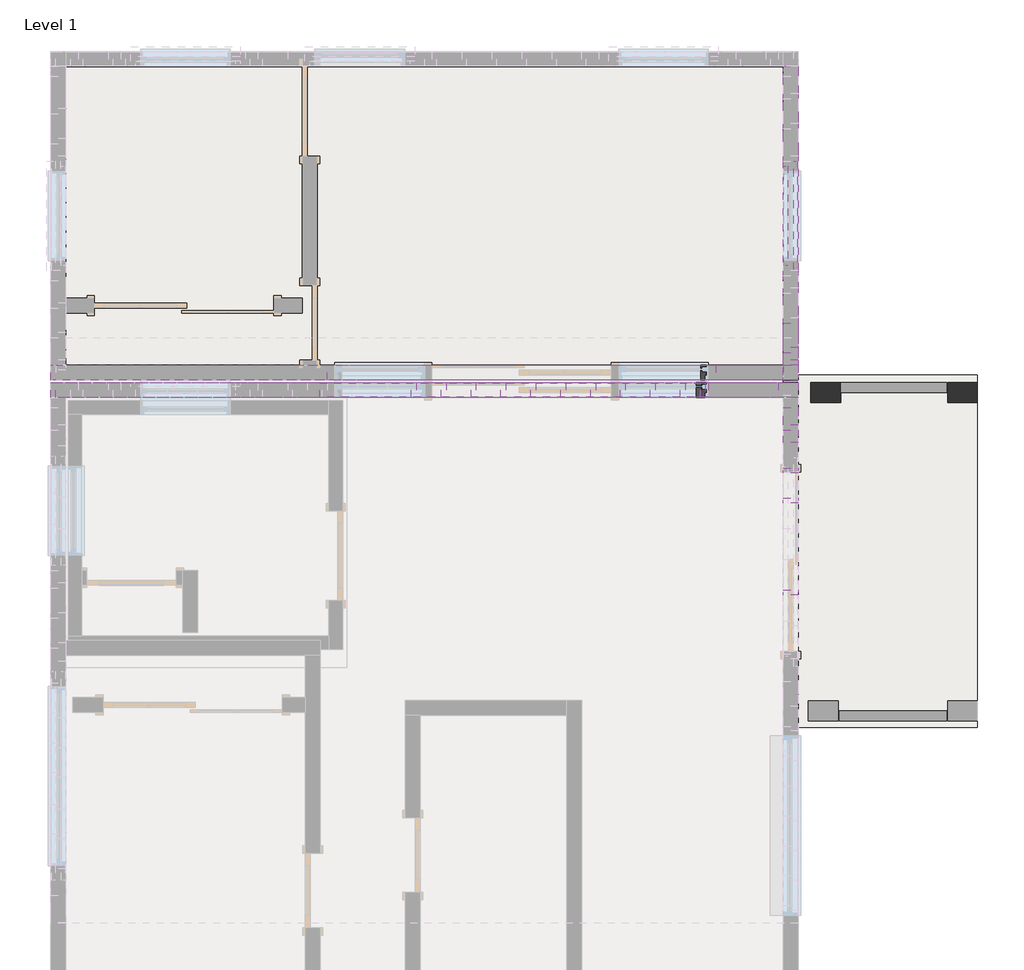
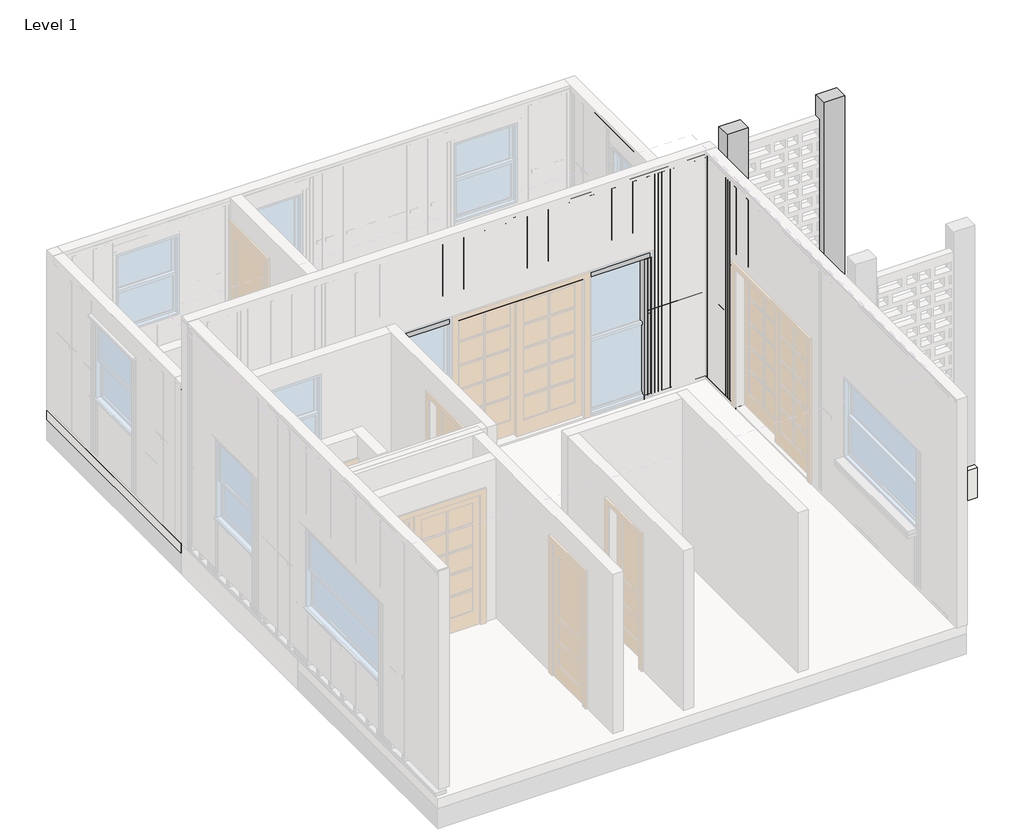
# One storey, part 10 of 12: 92 beams, 2 columns, 2 slabs.
"""IFC4 building model written with IfcOpenShell, lengths in millimetres."""

from ifc_helpers import new_model, si_unit, frame, origin, origin_with_axes, place, context, project, spatial, polyline, outline, extrude, faceted_brep, transform, mapped, element, save
from components import beam_f858cb3c, beam_8a68365d, dimension_lumber_2x6_a6130f63, beam_3d62fdea, beam_7a36c676, beam_fa8ff98f, beam_f2c8ab0e, beam_2b1354d8, beam_0820d10d, beam_558964e0, beam_47c8efd2, beam_303ef41e, beam_e0216813, beam_4715e774, beam_b7962ac8, beam_15472744, beam_b2f74068, beam_e05c4371, beam_19b97b81, beam_e041d9c6, beam_b8da4116, beam_9beb57b8, beam_6e482ad8, beam_52755977, beam_0ed2558e, beam_c20683a9, beam_c2d99e7f, beam_dd70e189, beam_7e40e194, beam_6d0ef5b7, beam_9d6aa0d6, beam_871d04bb, beam_68e625a2, beam_1fd180ee

model = new_model("IFC4")

# Units and contexts
model_context = context("Model", 3, world=origin())
ifc_project = project(units=[si_unit("LENGTHUNIT", "METRE", prefix="MILLI")], contexts=[model_context])

# Site, building, storey
site = spatial("IfcSite", under=ifc_project)
building = spatial("IfcBuilding", under=site)
storey = spatial("IfcBuildingStorey", under=building, Name="Level 1", Elevation=0.0)

# Beams
placement = place(None, origin())
beam_shape = beam_f858cb3c(model_context)
element("IfcBeam", 1, ObjectType="BraceBeam : 6\" x 16\"", at=placement, inside=storey, context=model_context, shape_type="MappedRepresentation", body=[
    mapped(beam_shape, transform((-6805.2890766, -18836.1763369, 2336.8), x_axis=(-1.0, 0.0, 0.0), y_axis=(0.0, -1.0, 0.0), z_axis=(0.0, 0.0, 1.0))),
])
beam_2_shape = beam_8a68365d(model_context)
element("IfcBeam", 2, ObjectType="BraceBeam : 6\" x 8\"", at=placement, inside=storey, context=model_context, shape_type="MappedRepresentation", body=[
    mapped(beam_2_shape, transform((-6732.5886983, -18658.4431336, 2244.725), x_axis=(-1.0, 0.0, 0.0), y_axis=(0.0, -1.0, 0.0), z_axis=(0.0, 0.0, 1.0))),
])
dimension_lumber_2x6_shape = dimension_lumber_2x6_a6130f63(model_context)
element("IfcBeam", 3, ObjectType="Dimension Lumber : 2x6", at=placement, inside=storey, context=model_context, shape_type="MappedRepresentation", body=[
    mapped(dimension_lumber_2x6_shape, transform((-4443.0840766, -18836.1763369, 25.4), x_axis=(-1.0000000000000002, 0.0, 0.0), y_axis=(0.0, 0.0, -1.0000000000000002), z_axis=(0.0, -1.0000000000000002, 0.0))),
])
element("IfcBeam", 4, ObjectType="Rectangular(Timber)-Beam : Timber_0' - 1 31/32\" x0' - 5 29/32\" _ContentGenerator", at=placement, inside=storey, context=model_context, shape_type="SweptSolid", body=[
    extrude(outline(polyline([(-3909.6790766, -18912.3863369), (-3909.6790766, -18963.1863369), (-4062.0790766, -18963.1863369), (-4062.0790766, -18912.3863369), (-3909.6790766, -18912.3863369)])), frame((0.0, 0.0, 50.8), z_axis=(0.0, 0.0, 1.0), x_axis=(1.0, 0.0, 0.0)), (0.0, 0.0, 1.0), 3378.2),
])
element("IfcBeam", 5, ObjectType="Rectangular(Timber)-Beam : Timber_0' - 1 31/32\" x0' - 5 29/32\" _ContentGenerator", at=placement, inside=storey, context=model_context, shape_type="SweptSolid", body=[
    extrude(outline(polyline([(-3909.6790766, -19623.5863369), (-3909.6790766, -19674.3863369), (-4062.0790766, -19674.3863369), (-4062.0790766, -19623.5863369), (-3909.6790766, -19623.5863369)])), origin_with_axes(), (0.0, 0.0, 1.0), 2127.25),
])
element("IfcBeam", 6, ObjectType="Rectangular(Timber)-Beam : Timber_0' - 1 31/32\" x0' - 5 29/32\" _ContentGenerator", at=placement, inside=storey, context=model_context, shape_type="SweptSolid", body=[
    extrude(outline(polyline([(3380.856975, -3960.4740766), (3431.656975, -3909.6740766), (3431.656975, -11478.8790766), (3380.856975, -11478.8790766), (3380.856975, -3960.4740766)])), frame((0.0, -18912.3763369, 0.0), z_axis=(0.0, 1.0, 0.0), x_axis=(0.0, 0.0, 1.0)), (0.0, 0.0, 1.0), 152.4),
])
element("IfcBeam", 7, ObjectType="Rectangular(Timber)-Beam : Timber_0' - 1 31/32\" x0' - 5 29/32\" _ContentGenerator", at=placement, inside=storey, context=model_context, shape_type="SweptSolid", body=[
    extrude(outline(polyline([(3431.656975, -3909.6740766), (3380.856975, -3960.4740766), (0.0, -3960.4740766), (0.0, -3909.6740766), (3431.656975, -3909.6740766)])), frame((0.0, -18912.3763369, 0.0), z_axis=(0.0, 1.0, 0.0), x_axis=(0.0, 0.0, 1.0)), (0.0, 0.0, 1.0), 152.4),
])
element("IfcBeam", 8, ObjectType="Rectangular(Timber)-Beam : Timber_0' - 1 31/32\" x0' - 5 29/32\" _ContentGenerator", at=placement, inside=storey, context=model_context, shape_type="SweptSolid", body=[
    extrude(outline(polyline([(-18683.8481336, 2336.8), (-18734.6481336, 2387.6), (-15534.2531336, 2387.6), (-15585.0531336, 2336.8), (-18683.8481336, 2336.8)])), frame((-4062.0790766, 0.0, 0.0), z_axis=(1.0, 0.0, 0.0), x_axis=(0.0, 1.0, 0.0)), (0.0, 0.0, 1.0), 152.4),
])
element("IfcBeam", 9, ObjectType="Rectangular(Timber)-Beam : Timber_0' - 1 31/32\" x0' - 5 29/32\" _ContentGenerator", at=placement, inside=storey, context=model_context, shape_type="SweptSolid", body=[
    extrude(outline(polyline([(-18734.6481336, 2387.6), (-18683.8481336, 2336.8), (-18683.8481336, 50.8), (-18734.6481336, 0.0), (-18734.6481336, 2387.6)])), frame((-4062.0790766, 0.0, 0.0), z_axis=(1.0, 0.0, 0.0), x_axis=(0.0, 1.0, 0.0)), (0.0, 0.0, 1.0), 152.4),
])
element("IfcBeam", 10, ObjectType="Rectangular(Timber)-Beam : Timber_0' - 1 31/32\" x0' - 5 29/32\" _ContentGenerator", at=placement, inside=storey, context=model_context, shape_type="SweptSolid", body=[
    extrude(outline(polyline([(-3909.6790766, -17617.0531342), (-3909.6790766, -17667.8531342), (-4062.0790766, -17667.8531342), (-4062.0790766, -17617.0531342), (-3909.6790766, -17617.0531342)])), frame((0.0, 0.0, 50.8), z_axis=(0.0, 0.0, 1.0), x_axis=(1.0, 0.0, 0.0)), (0.0, 0.0, 1.0), 2286.0),
])
element("IfcBeam", 11, ObjectType="Rectangular(Timber)-Beam : Timber_0' - 1 31/32\" x0' - 5 29/32\" _ContentGenerator", at=placement, inside=storey, context=model_context, shape_type="SweptSolid", body=[
    extrude(outline(polyline([(2438.4, -11529.6840766), (2387.6, -11478.8840766), (2387.6, -3909.6790766), (2438.4, -3909.6790766), (2438.4, -11529.6840766)])), frame((0.0, -18734.6431336, 0.0), z_axis=(0.0, 1.0, 0.0), x_axis=(0.0, 0.0, 1.0)), (0.0, 0.0, 1.0), 152.4),
])
element("IfcBeam", 12, ObjectType="Rectangular(Timber)-Beam : Timber_0' - 1 31/32\" x0' - 5 29/32\" _ContentGenerator", at=placement, inside=storey, context=model_context, shape_type="SweptSolid", body=[
    extrude(outline(polyline([(2387.6, -11478.8840766), (2336.8, -11529.6840766), (2336.8, -4112.8890766), (2387.6, -4062.0890766), (2387.6, -11478.8840766)])), frame((0.0, -18734.6431336, 0.0), z_axis=(0.0, 1.0, 0.0), x_axis=(0.0, 0.0, 1.0)), (0.0, 0.0, 1.0), 152.4),
])
element("IfcBeam", 13, ObjectType="Rectangular(Timber)-Beam : Timber_0' - 1 31/32\" x0' - 5 29/32\" _ContentGenerator", at=placement, inside=storey, context=model_context, shape_type="SweptSolid", body=[
    extrude(outline(polyline([(2387.6, -4062.0890766), (2336.8, -4112.8890766), (0.0, -4112.8890766), (0.0, -4062.0890766), (2387.6, -4062.0890766)])), frame((0.0, -18734.6431336, 0.0), z_axis=(0.0, 1.0, 0.0), x_axis=(0.0, 0.0, 1.0)), (0.0, 0.0, 1.0), 152.4),
])
element("IfcBeam", 14, ObjectType="Rectangular(Timber)-Beam : Timber_0' - 1 31/32\" x0' - 5 29/32\" _ContentGenerator", at=placement, inside=storey, context=model_context, shape_type="SweptSolid", body=[
    extrude(outline(polyline([(-4062.0790766, -18734.5763369), (-3909.6790766, -18734.5763369), (-3909.6790766, -19623.5863369), (-4062.0790766, -19623.5863369), (-4062.0790766, -18734.5763369)])), origin_with_axes(), (0.0, 0.0, 1.0), 50.8),
])
element("IfcBeam", 15, ObjectType="Rectangular(Timber)-Beam : Timber_0' - 1 31/32\" x0' - 5 29/32\" _ContentGenerator", at=placement, inside=storey, context=model_context, shape_type="SweptSolid", body=[
    extrude(outline(polyline([(-4112.8890766, -18582.2431336), (-4112.8890766, -18734.6431336), (-4852.9936983, -18734.6431336), (-4852.9936983, -18582.2431336), (-4112.8890766, -18582.2431336)])), origin_with_axes(), (0.0, 0.0, 1.0), 50.8),
])
beam_3_shape = beam_3d62fdea(model_context)
element("IfcBeam", 16, ObjectType="Rectangular(Timber)-Beam : Timber_0' - 1 31/32\" x0' - 5 29/32\" _ContentGenerator", at=placement, inside=storey, context=model_context, shape_type="MappedRepresentation", body=[
    mapped(beam_3_shape, transform((-3985.8790766, -19293.3813369, 1314.45), x_axis=(0.0, -1.0000000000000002, 0.0), y_axis=(0.0, 0.0, -1.0000000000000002), z_axis=(1.0000000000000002, 0.0, 0.0))),
])
beam_4_shape = beam_7a36c676(model_context)
element("IfcBeam", 17, ObjectType="Rectangular(Timber)-Beam : Timber_0' - 1 31/32\" x0' - 5 29/32\" _ContentGenerator", at=placement, inside=storey, context=model_context, shape_type="MappedRepresentation", body=[
    mapped(beam_4_shape, transform((-4404.9890766, -18658.4431336, 1219.2), x_axis=(-1.0000000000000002, 0.0, 0.0), y_axis=(0.0, 0.0, -1.0000000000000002), z_axis=(0.0, -1.0000000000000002, 0.0))),
])
beam_5_shape = beam_fa8ff98f(model_context)
element("IfcBeam", 18, ObjectType="Rectangular(Timber)-Beam : Timber_0' - 1 31/32\" x0' - 5 29/32\" _ContentGenerator", at=placement, inside=storey, context=model_context, shape_type="MappedRepresentation", body=[
    mapped(beam_5_shape, transform((-6000.9457433, -18836.1763369, 2985.8284875), x_axis=(0.0, 0.0, 1.0), y_axis=(1.0, 0.0, 0.0), z_axis=(0.0, 1.0, 0.0))),
])
element("IfcBeam", 19, ObjectType="Rectangular(Timber)-Beam : Timber_0' - 1 31/32\" x0' - 5 29/32\" _ContentGenerator", at=placement, inside=storey, context=model_context, shape_type="MappedRepresentation", body=[
    mapped(beam_5_shape, transform((-5391.3457433, -18836.1763369, 2985.8284875), x_axis=(0.0, 0.0, 1.0), y_axis=(1.0, 0.0, 0.0), z_axis=(0.0, 1.0, 0.0))),
])
element("IfcBeam", 20, ObjectType="Rectangular(Timber)-Beam : Timber_0' - 1 31/32\" x0' - 5 29/32\" _ContentGenerator", at=placement, inside=storey, context=model_context, shape_type="MappedRepresentation", body=[
    mapped(beam_5_shape, transform((-4883.3457433, -18836.1763369, 2985.8284875), x_axis=(0.0, 0.0, 1.0), y_axis=(1.0, 0.0, 0.0), z_axis=(0.0, 1.0, 0.0))),
])
element("IfcBeam", 21, ObjectType="Rectangular(Timber)-Beam : Timber_0' - 1 31/32\" x0' - 5 29/32\" _ContentGenerator", at=placement, inside=storey, context=model_context, shape_type="MappedRepresentation", body=[
    mapped(beam_5_shape, transform((-6305.7457433, -18836.1763369, 2985.8284875), x_axis=(0.0, 0.0, 1.0), y_axis=(1.0, 0.0, 0.0), z_axis=(0.0, 1.0, 0.0))),
])
element("IfcBeam", 22, ObjectType="Rectangular(Timber)-Beam : Timber_0' - 1 31/32\" x0' - 5 29/32\" _ContentGenerator", at=placement, inside=storey, context=model_context, shape_type="MappedRepresentation", body=[
    mapped(beam_5_shape, transform((-6610.5457433, -18836.1763369, 2985.8284875), x_axis=(0.0, 0.0, 1.0), y_axis=(1.0, 0.0, 0.0), z_axis=(0.0, 1.0, 0.0))),
])
element("IfcBeam", 23, ObjectType="Rectangular(Timber)-Beam : Timber_0' - 1 31/32\" x0' - 5 29/32\" _ContentGenerator", at=placement, inside=storey, context=model_context, shape_type="MappedRepresentation", body=[
    mapped(beam_5_shape, transform((-6915.3457433, -18836.1763369, 2985.8284875), x_axis=(0.0, 0.0, 1.0), y_axis=(1.0, 0.0, 0.0), z_axis=(0.0, 1.0, 0.0))),
])
element("IfcBeam", 24, ObjectType="Rectangular(Timber)-Beam : Timber_0' - 1 31/32\" x0' - 5 29/32\" _ContentGenerator", at=placement, inside=storey, context=model_context, shape_type="MappedRepresentation", body=[
    mapped(beam_5_shape, transform((-7220.1457433, -18836.1763369, 2985.8284875), x_axis=(0.0, 0.0, 1.0), y_axis=(1.0, 0.0, 0.0), z_axis=(0.0, 1.0, 0.0))),
])
element("IfcBeam", 25, ObjectType="Rectangular(Timber)-Beam : Timber_0' - 1 31/32\" x0' - 5 29/32\" _ContentGenerator", at=placement, inside=storey, context=model_context, shape_type="MappedRepresentation", body=[
    mapped(beam_5_shape, transform((-7524.9457433, -18836.1763369, 2985.8284875), x_axis=(0.0, 0.0, 1.0), y_axis=(1.0, 0.0, 0.0), z_axis=(0.0, 1.0, 0.0))),
])
element("IfcBeam", 26, ObjectType="Rectangular(Timber)-Beam : Timber_0' - 1 31/32\" x0' - 5 29/32\" _ContentGenerator", at=placement, inside=storey, context=model_context, shape_type="MappedRepresentation", body=[
    mapped(beam_5_shape, transform((-5696.1457433, -18836.1763369, 2985.8284875), x_axis=(0.0, 0.0, 1.0), y_axis=(1.0, 0.0, 0.0), z_axis=(0.0, 1.0, 0.0))),
])
element("IfcBeam", 27, ObjectType="Rectangular(Timber)-Beam : Timber_0' - 1 31/32\" x0' - 5 29/32\" _ContentGenerator", at=placement, inside=storey, context=model_context, shape_type="MappedRepresentation", body=[
    mapped(beam_5_shape, transform((-7829.7457433, -18836.1763369, 2985.8284875), x_axis=(0.0, 0.0, 1.0), y_axis=(1.0, 0.0, 0.0), z_axis=(0.0, 1.0, 0.0))),
])
element("IfcBeam", 28, ObjectType="Rectangular(Timber)-Beam : Timber_0' - 1 31/32\" x0' - 5 29/32\" _ContentGenerator", at=placement, inside=storey, context=model_context, shape_type="MappedRepresentation", body=[
    mapped(beam_5_shape, transform((-5086.5457433, -18836.1763369, 2985.8284875), x_axis=(0.0, 0.0, 1.0), y_axis=(1.0, 0.0, 0.0), z_axis=(0.0, 1.0, 0.0))),
])
beam_6_shape = beam_f2c8ab0e(model_context)
element("IfcBeam", 29, ObjectType="Rectangular(Timber)-Beam : Timber_0' - 1 31/32\" x0' - 5 29/32\" _ContentGenerator", at=placement, inside=storey, context=model_context, shape_type="MappedRepresentation", body=[
    mapped(beam_6_shape, transform((-4878.3936983, -18658.4431336, 1089.025), x_axis=(0.0, 0.0, 1.0), y_axis=(-1.0, 0.0, 0.0), z_axis=(0.0, -1.0, 0.0))),
])
beam_7_shape = beam_2b1354d8(model_context)
element("IfcBeam", 30, ObjectType="Rectangular(Timber)-Beam : Timber_0' - 1 31/32\" x0' - 5 29/32\" _ContentGenerator", at=placement, inside=storey, context=model_context, shape_type="MappedRepresentation", body=[
    mapped(beam_7_shape, transform((-4201.7890766, -18658.4431336, 1219.2), x_axis=(-1.0000000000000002, 0.0, 0.0), y_axis=(0.0, 0.0, -1.0000000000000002), z_axis=(0.0, -1.0000000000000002, 0.0))),
])
beam_8_shape = beam_0820d10d(model_context)
element("IfcBeam", 31, ObjectType="Rectangular(Timber)-Beam : Timber_0' - 1 31/32\" x0' - 5 29/32\" _ContentGenerator", at=placement, inside=storey, context=model_context, shape_type="MappedRepresentation", body=[
    mapped(beam_8_shape, transform((-4506.5790766, -18836.1763369, 1314.45), x_axis=(1.0000000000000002, 0.0, 0.0), y_axis=(0.0, 0.0, -1.0000000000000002), z_axis=(0.0, 1.0000000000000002, 0.0))),
])
beam_9_shape = beam_558964e0(model_context)
element("IfcBeam", 32, ObjectType="Rectangular(Timber)-Beam : Timber_0' - 1 31/32\" x0' - 5 29/32\" _ContentGenerator", at=placement, inside=storey, context=model_context, shape_type="MappedRepresentation", body=[
    mapped(beam_9_shape, transform((-3985.8790766, -18658.4531336, 1193.8), x_axis=(0.0, 0.0, 1.0), y_axis=(0.0, -1.0, 0.0), z_axis=(1.0, 0.0, 0.0))),
])
element("IfcBeam", 33, ObjectType="Rectangular(Timber)-Beam : Timber_0' - 1 31/32\" x0' - 5 29/32\" _ContentGenerator", at=placement, inside=storey, context=model_context, shape_type="MappedRepresentation", body=[
    mapped(beam_9_shape, transform((-3985.8790766, -18709.2481336, 1193.8), x_axis=(0.0, 0.0, 1.0), y_axis=(0.0, -1.0, 0.0), z_axis=(1.0, 0.0, 0.0))),
])
element("IfcBeam", 34, ObjectType="Rectangular(Timber)-Beam : Timber_0' - 1 31/32\" x0' - 5 29/32\" _ContentGenerator", at=placement, inside=storey, context=model_context, shape_type="MappedRepresentation", body=[
    mapped(beam_9_shape, transform((-3985.8790766, -18658.4531336, 1193.8), x_axis=(0.0, 0.0, 1.0), y_axis=(0.0, -1.0, 0.0), z_axis=(1.0, 0.0, 0.0))),
])
element("IfcBeam", 35, ObjectType="Rectangular(Timber)-Beam : Timber_0' - 1 31/32\" x0' - 5 29/32\" _ContentGenerator", at=placement, inside=storey, context=model_context, shape_type="MappedRepresentation", body=[
    mapped(beam_9_shape, transform((-3985.8790766, -17820.2431336, 1193.8), x_axis=(0.0, 0.0, 1.0), y_axis=(0.0, -1.0, 0.0), z_axis=(1.0, 0.0, 0.0))),
])
element("IfcBeam", 36, ObjectType="Rectangular(Timber)-Beam : Timber_0' - 1 31/32\" x0' - 5 29/32\" _ContentGenerator", at=placement, inside=storey, context=model_context, shape_type="MappedRepresentation", body=[
    mapped(beam_9_shape, transform((-3985.8790766, -18125.0431336, 1193.8), x_axis=(0.0, 0.0, 1.0), y_axis=(0.0, -1.0, 0.0), z_axis=(1.0, 0.0, 0.0))),
])
element("IfcBeam", 37, ObjectType="Rectangular(Timber)-Beam : Timber_0' - 1 31/32\" x0' - 5 29/32\" _ContentGenerator", at=placement, inside=storey, context=model_context, shape_type="MappedRepresentation", body=[
    mapped(beam_9_shape, transform((-3985.8790766, -18429.8431336, 1193.8), x_axis=(0.0, 0.0, 1.0), y_axis=(0.0, -1.0, 0.0), z_axis=(1.0, 0.0, 0.0))),
])
element("IfcBeam", 38, ObjectType="Rectangular(Timber)-Beam : Timber_0' - 1 31/32\" x0' - 5 29/32\" _ContentGenerator", at=placement, inside=storey, context=model_context, shape_type="MappedRepresentation", body=[
    mapped(beam_9_shape, transform((-3985.8790766, -18709.2481336, 1193.8), x_axis=(0.0, 0.0, 1.0), y_axis=(0.0, -1.0, 0.0), z_axis=(1.0, 0.0, 0.0))),
])
element("IfcBeam", 39, ObjectType="Rectangular(Timber)-Beam : Timber_0' - 1 31/32\" x0' - 5 29/32\" _ContentGenerator", at=placement, inside=storey, context=model_context, shape_type="MappedRepresentation", body=[
    mapped(beam_9_shape, transform((-3985.8790766, -18658.4531336, 1193.8), x_axis=(0.0, 0.0, 1.0), y_axis=(0.0, -1.0, 0.0), z_axis=(1.0, 0.0, 0.0))),
])
element("IfcBeam", 40, ObjectType="Rectangular(Timber)-Beam : Timber_0' - 1 31/32\" x0' - 5 29/32\" _ContentGenerator", at=placement, inside=storey, context=model_context, shape_type="MappedRepresentation", body=[
    mapped(beam_9_shape, transform((-3985.8790766, -17820.2431336, 1193.8), x_axis=(0.0, 0.0, 1.0), y_axis=(0.0, -1.0, 0.0), z_axis=(1.0, 0.0, 0.0))),
])
element("IfcBeam", 41, ObjectType="Rectangular(Timber)-Beam : Timber_0' - 1 31/32\" x0' - 5 29/32\" _ContentGenerator", at=placement, inside=storey, context=model_context, shape_type="MappedRepresentation", body=[
    mapped(beam_9_shape, transform((-3985.8790766, -18125.0431336, 1193.8), x_axis=(0.0, 0.0, 1.0), y_axis=(0.0, -1.0, 0.0), z_axis=(1.0, 0.0, 0.0))),
])
element("IfcBeam", 42, ObjectType="Rectangular(Timber)-Beam : Timber_0' - 1 31/32\" x0' - 5 29/32\" _ContentGenerator", at=placement, inside=storey, context=model_context, shape_type="MappedRepresentation", body=[
    mapped(beam_9_shape, transform((-3985.8790766, -18429.8431336, 1193.8), x_axis=(0.0, 0.0, 1.0), y_axis=(0.0, -1.0, 0.0), z_axis=(1.0, 0.0, 0.0))),
])
element("IfcBeam", 43, ObjectType="Rectangular(Timber)-Beam : Timber_0' - 1 31/32\" x0' - 5 29/32\" _ContentGenerator", at=placement, inside=storey, context=model_context, shape_type="MappedRepresentation", body=[
    mapped(beam_9_shape, transform((-4138.2890766, -18658.4431336, 1193.8), x_axis=(0.0, 0.0, 1.0), y_axis=(-1.0, 0.0, 0.0), z_axis=(0.0, -1.0, 0.0))),
])
element("IfcBeam", 44, ObjectType="Rectangular(Timber)-Beam : Timber_0' - 1 31/32\" x0' - 5 29/32\" _ContentGenerator", at=placement, inside=storey, context=model_context, shape_type="MappedRepresentation", body=[
    mapped(beam_9_shape, transform((-3985.8790766, -18607.6581336, 1193.8), x_axis=(0.0, 0.0, 1.0), y_axis=(0.0, -1.0, 0.0), z_axis=(1.0, 0.0, 0.0))),
])
element("IfcBeam", 45, ObjectType="Rectangular(Timber)-Beam : Timber_0' - 1 31/32\" x0' - 5 29/32\" _ContentGenerator", at=placement, inside=storey, context=model_context, shape_type="MappedRepresentation", body=[
    mapped(beam_9_shape, transform((-3985.8790766, -18556.8581336, 1193.8), x_axis=(0.0, 0.0, 1.0), y_axis=(0.0, -1.0, 0.0), z_axis=(1.0, 0.0, 0.0))),
])
element("IfcBeam", 46, ObjectType="Rectangular(Timber)-Beam : Timber_0' - 1 31/32\" x0' - 5 29/32\" _ContentGenerator", at=placement, inside=storey, context=model_context, shape_type="MappedRepresentation", body=[
    mapped(beam_9_shape, transform((-4544.6890766, -18658.4431336, 1193.8), x_axis=(0.0, 0.0, 1.0), y_axis=(-1.0, 0.0, 0.0), z_axis=(0.0, -1.0, 0.0))),
])
element("IfcBeam", 47, ObjectType="Rectangular(Timber)-Beam : Timber_0' - 1 31/32\" x0' - 5 29/32\" _ContentGenerator", at=placement, inside=storey, context=model_context, shape_type="MappedRepresentation", body=[
    mapped(beam_9_shape, transform((-4239.8890766, -18658.4431336, 1193.8), x_axis=(0.0, 0.0, 1.0), y_axis=(-1.0, 0.0, 0.0), z_axis=(0.0, -1.0, 0.0))),
])
element("IfcBeam", 48, ObjectType="Rectangular(Timber)-Beam : Timber_0' - 1 31/32\" x0' - 5 29/32\" _ContentGenerator", at=placement, inside=storey, context=model_context, shape_type="MappedRepresentation", body=[
    mapped(beam_9_shape, transform((-4725.9936983, -18658.4431336, 1193.8), x_axis=(0.0, 0.0, 1.0), y_axis=(-1.0, 0.0, 0.0), z_axis=(0.0, -1.0, 0.0))),
])
element("IfcBeam", 49, ObjectType="Rectangular(Timber)-Beam : Timber_0' - 1 31/32\" x0' - 5 29/32\" _ContentGenerator", at=placement, inside=storey, context=model_context, shape_type="MappedRepresentation", body=[
    mapped(beam_9_shape, transform((-4675.1936983, -18658.4431336, 1193.8), x_axis=(0.0, 0.0, 1.0), y_axis=(-1.0, 0.0, 0.0), z_axis=(0.0, -1.0, 0.0))),
])
element("IfcBeam", 50, ObjectType="Rectangular(Timber)-Beam : Timber_0' - 1 31/32\" x0' - 5 29/32\" _ContentGenerator", at=placement, inside=storey, context=model_context, shape_type="MappedRepresentation", body=[
    mapped(beam_9_shape, transform((-4624.3936983, -18658.4431336, 1193.8), x_axis=(0.0, 0.0, 1.0), y_axis=(-1.0, 0.0, 0.0), z_axis=(0.0, -1.0, 0.0))),
])
beam_10_shape = beam_47c8efd2(model_context)
element("IfcBeam", 51, ObjectType="Rectangular(Timber)-Beam : Timber_0' - 1 31/32\" x0' - 5 29/32\" _ContentGenerator", at=placement, inside=storey, context=model_context, shape_type="MappedRepresentation", body=[
    mapped(beam_10_shape, transform((-7719.6790766, -18836.1763369, 3457.056975), x_axis=(1.0000000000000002, 0.0, 0.0), y_axis=(0.0, 0.0, -1.0000000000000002), z_axis=(0.0, 1.0000000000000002, 0.0))),
])
beam_11_shape = beam_303ef41e(model_context)
element("IfcBeam", 52, ObjectType="Rectangular(Timber)-Beam : Timber_0' - 1 31/32\" x0' - 5 29/32\" _ContentGenerator", at=placement, inside=storey, context=model_context, shape_type="MappedRepresentation", body=[
    mapped(beam_11_shape, transform((-3985.8790766, -17058.2431336, 2413.0), x_axis=(0.0, -1.0000000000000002, 0.0), y_axis=(0.0, 0.0, -1.0000000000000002), z_axis=(1.0000000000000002, 0.0, 0.0))),
])
beam_12_shape = beam_e0216813(model_context)
element("IfcBeam", 53, ObjectType="Rectangular(Timber)-Beam : Timber_0' - 1 31/32\" x0' - 5 29/32\" _ContentGenerator", at=placement, inside=storey, context=model_context, shape_type="MappedRepresentation", body=[
    mapped(beam_12_shape, transform((-4922.8436983, -18836.1763369, 1066.8), x_axis=(0.0, 0.0, 1.0), y_axis=(1.0, 0.0, 0.0), z_axis=(0.0, 1.0, 0.0))),
])
beam_13_shape = beam_4715e774(model_context)
element("IfcBeam", 54, ObjectType="Rectangular(Timber)-Beam : Timber_0' - 1 31/32\" x0' - 5 29/32\" _ContentGenerator", at=placement, inside=storey, context=model_context, shape_type="MappedRepresentation", body=[
    mapped(beam_13_shape, transform((-4872.0436983, -18836.1763369, 1092.2), x_axis=(0.0, 0.0, 1.0), y_axis=(1.0, 0.0, 0.0), z_axis=(0.0, 1.0, 0.0))),
])
element("IfcBeam", 55, ObjectType="Rectangular(Timber)-Beam : Timber_0' - 1 31/32\" x0' - 5 29/32\" _ContentGenerator", at=placement, inside=storey, context=model_context, shape_type="MappedRepresentation", body=[
    mapped(beam_13_shape, transform((-4821.2436983, -18836.1763369, 1092.2), x_axis=(0.0, 0.0, 1.0), y_axis=(1.0, 0.0, 0.0), z_axis=(0.0, 1.0, 0.0))),
])
beam_14_shape = beam_b7962ac8(model_context)
element("IfcBeam", 56, ObjectType="Rectangular(Timber)-Beam : Timber_0' - 1 31/32\" x0' - 5 29/32\" _ContentGenerator", at=placement, inside=storey, context=model_context, shape_type="MappedRepresentation", body=[
    mapped(beam_14_shape, transform((-3985.8790766, -17490.0531336, 457.2), x_axis=(0.0, 0.0, 1.0), y_axis=(0.0, -1.0, 0.0), z_axis=(1.0, 0.0, 0.0))),
])
beam_15_shape = beam_15472744(model_context)
element("IfcBeam", 57, ObjectType="Rectangular(Timber)-Beam : Timber_0' - 1 31/32\" x0' - 5 29/32\" _ContentGenerator", at=placement, inside=storey, context=model_context, shape_type="MappedRepresentation", body=[
    mapped(beam_15_shape, transform((-3985.8790766, -18988.5863369, 1715.8284875), x_axis=(0.0, 0.0, 1.0), y_axis=(0.0, -1.0, 0.0), z_axis=(1.0, 0.0, 0.0))),
])
element("IfcBeam", 58, ObjectType="Rectangular(Timber)-Beam : Timber_0' - 1 31/32\" x0' - 5 29/32\" _ContentGenerator", at=placement, inside=storey, context=model_context, shape_type="MappedRepresentation", body=[
    mapped(beam_15_shape, transform((-3985.8790766, -19217.1763369, 1715.8284875), x_axis=(0.0, 0.0, 1.0), y_axis=(0.0, -1.0, 0.0), z_axis=(1.0, 0.0, 0.0))),
])
element("IfcBeam", 59, ObjectType="Rectangular(Timber)-Beam : Timber_0' - 1 31/32\" x0' - 5 29/32\" _ContentGenerator", at=placement, inside=storey, context=model_context, shape_type="MappedRepresentation", body=[
    mapped(beam_15_shape, transform((-3985.8690766, -18836.1763369, 1715.8284875), x_axis=(0.0, 0.0, 1.0), y_axis=(1.0, 0.0, 0.0), z_axis=(0.0, 1.0, 0.0))),
])
element("IfcBeam", 60, ObjectType="Rectangular(Timber)-Beam : Timber_0' - 1 31/32\" x0' - 5 29/32\" _ContentGenerator", at=placement, inside=storey, context=model_context, shape_type="MappedRepresentation", body=[
    mapped(beam_15_shape, transform((-4036.6690766, -18836.1763369, 1715.8284875), x_axis=(0.0, 0.0, 1.0), y_axis=(1.0, 0.0, 0.0), z_axis=(0.0, 1.0, 0.0))),
])
element("IfcBeam", 61, ObjectType="Rectangular(Timber)-Beam : Timber_0' - 1 31/32\" x0' - 5 29/32\" _ContentGenerator", at=placement, inside=storey, context=model_context, shape_type="MappedRepresentation", body=[
    mapped(beam_15_shape, transform((-4087.4690766, -18836.1763369, 1715.8284875), x_axis=(0.0, 0.0, 1.0), y_axis=(1.0, 0.0, 0.0), z_axis=(0.0, 1.0, 0.0))),
])
element("IfcBeam", 62, ObjectType="Rectangular(Timber)-Beam : Timber_0' - 1 31/32\" x0' - 5 29/32\" _ContentGenerator", at=placement, inside=storey, context=model_context, shape_type="MappedRepresentation", body=[
    mapped(beam_15_shape, transform((-4544.6890766, -18836.1763369, 1715.8284875), x_axis=(0.0, 0.0, 1.0), y_axis=(1.0, 0.0, 0.0), z_axis=(0.0, 1.0, 0.0))),
])
element("IfcBeam", 63, ObjectType="Rectangular(Timber)-Beam : Timber_0' - 1 31/32\" x0' - 5 29/32\" _ContentGenerator", at=placement, inside=storey, context=model_context, shape_type="MappedRepresentation", body=[
    mapped(beam_15_shape, transform((-4239.8890766, -18836.1763369, 1715.8284875), x_axis=(0.0, 0.0, 1.0), y_axis=(1.0, 0.0, 0.0), z_axis=(0.0, 1.0, 0.0))),
])
element("IfcBeam", 64, ObjectType="Rectangular(Timber)-Beam : Timber_0' - 1 31/32\" x0' - 5 29/32\" _ContentGenerator", at=placement, inside=storey, context=model_context, shape_type="MappedRepresentation", body=[
    mapped(beam_15_shape, transform((-4770.4436983, -18836.1763369, 1715.8284875), x_axis=(0.0, 0.0, 1.0), y_axis=(1.0, 0.0, 0.0), z_axis=(0.0, 1.0, 0.0))),
])
element("IfcBeam", 65, ObjectType="Rectangular(Timber)-Beam : Timber_0' - 1 31/32\" x0' - 5 29/32\" _ContentGenerator", at=placement, inside=storey, context=model_context, shape_type="MappedRepresentation", body=[
    mapped(beam_15_shape, transform((-4719.6436983, -18836.1763369, 1715.8284875), x_axis=(0.0, 0.0, 1.0), y_axis=(1.0, 0.0, 0.0), z_axis=(0.0, 1.0, 0.0))),
])
element("IfcBeam", 66, ObjectType="Rectangular(Timber)-Beam : Timber_0' - 1 31/32\" x0' - 5 29/32\" _ContentGenerator", at=placement, inside=storey, context=model_context, shape_type="MappedRepresentation", body=[
    mapped(beam_15_shape, transform((-4668.8436983, -18836.1763369, 1715.8284875), x_axis=(0.0, 0.0, 1.0), y_axis=(1.0, 0.0, 0.0), z_axis=(0.0, 1.0, 0.0))),
])
beam_16_shape = beam_b2f74068(model_context)
element("IfcBeam", 67, ObjectType="Rectangular(Timber)-Beam : Timber_0' - 1 31/32\" x0' - 5 29/32\" _ContentGenerator", at=placement, inside=storey, context=model_context, shape_type="MappedRepresentation", body=[
    mapped(beam_16_shape, transform((-3985.8790766, -19496.5863369, 1714.5), x_axis=(0.0, 0.0, 1.0), y_axis=(0.0, -1.0, 0.0), z_axis=(1.0, 0.0, 0.0))),
])
element("IfcBeam", 68, ObjectType="Rectangular(Timber)-Beam : Timber_0' - 1 31/32\" x0' - 5 29/32\" _ContentGenerator", at=placement, inside=storey, context=model_context, shape_type="MappedRepresentation", body=[
    mapped(beam_16_shape, transform((-3985.8790766, -19445.7863369, 1714.5), x_axis=(0.0, 0.0, 1.0), y_axis=(0.0, -1.0, 0.0), z_axis=(1.0, 0.0, 0.0))),
])
element("IfcBeam", 69, ObjectType="Rectangular(Timber)-Beam : Timber_0' - 1 31/32\" x0' - 5 29/32\" _ContentGenerator", at=placement, inside=storey, context=model_context, shape_type="MappedRepresentation", body=[
    mapped(beam_16_shape, transform((-3985.8790766, -19394.9863369, 1714.5), x_axis=(0.0, 0.0, 1.0), y_axis=(0.0, -1.0, 0.0), z_axis=(1.0, 0.0, 0.0))),
])
beam_17_shape = beam_e05c4371(model_context)
element("IfcBeam", 70, ObjectType="Rectangular(Timber)-Beam : Timber_0' - 1 31/32\" x0' - 5 29/32\" _ContentGenerator", at=placement, inside=storey, context=model_context, shape_type="MappedRepresentation", body=[
    mapped(beam_17_shape, transform((-3985.8790766, -17058.2531336, 889.0), x_axis=(0.0, -1.0000000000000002, 0.0), y_axis=(0.0, 0.0, -1.0000000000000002), z_axis=(1.0000000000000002, 0.0, 0.0))),
])
beam_18_shape = beam_19b97b81(model_context)
element("IfcBeam", 71, ObjectType="Rectangular(Timber)-Beam : Timber_0' - 1 31/32\" x0' - 5 29/32\" _ContentGenerator", at=placement, inside=storey, context=model_context, shape_type="MappedRepresentation", body=[
    mapped(beam_18_shape, transform((-3985.8790766, -18277.4431336, 1314.45), x_axis=(0.0, 1.0000000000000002, 0.0), y_axis=(0.0, 0.0, -1.0000000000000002), z_axis=(-1.0000000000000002, 0.0, 0.0))),
])
beam_19_shape = beam_e041d9c6(model_context)
element("IfcBeam", 72, ObjectType="Rectangular(Timber)-Beam : Timber_0' - 1 31/32\" x0' - 5 29/32\" _ContentGenerator", at=placement, inside=storey, context=model_context, shape_type="MappedRepresentation", body=[
    mapped(beam_19_shape, transform((-3985.8790766, -19102.8813369, 1314.45), x_axis=(0.0, -1.0000000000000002, 0.0), y_axis=(0.0, 0.0, -1.0000000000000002), z_axis=(1.0000000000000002, 0.0, 0.0))),
])
beam_20_shape = beam_b8da4116(model_context)
element("IfcBeam", 73, ObjectType="Rectangular(Timber)-Beam : Timber_0' - 1 31/32\" x0' - 5 29/32\" _ContentGenerator", at=placement, inside=storey, context=model_context, shape_type="MappedRepresentation", body=[
    mapped(beam_20_shape, transform((-3985.8790766, -18480.6506336, 1314.45), x_axis=(0.0, 1.0000000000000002, 0.0), y_axis=(0.0, 0.0, -1.0000000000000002), z_axis=(-1.0000000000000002, 0.0, 0.0))),
])
beam_21_shape = beam_9beb57b8(model_context)
element("IfcBeam", 74, ObjectType="Rectangular(Timber)-Beam : Timber_0' - 1 31/32\" x0' - 5 29/32\" _ContentGenerator", at=placement, inside=storey, context=model_context, shape_type="MappedRepresentation", body=[
    mapped(beam_21_shape, transform((-4827.5936983, -18658.4431336, 1101.725), x_axis=(0.0, 0.0, 1.0), y_axis=(-1.0, 0.0, 0.0), z_axis=(0.0, -1.0, 0.0))),
])
element("IfcBeam", 75, ObjectType="Rectangular(Timber)-Beam : Timber_0' - 1 31/32\" x0' - 5 29/32\" _ContentGenerator", at=placement, inside=storey, context=model_context, shape_type="MappedRepresentation", body=[
    mapped(beam_21_shape, transform((-4776.7936983, -18658.4431336, 1101.725), x_axis=(0.0, 0.0, 1.0), y_axis=(-1.0, 0.0, 0.0), z_axis=(0.0, -1.0, 0.0))),
])
beam_22_shape = beam_6e482ad8(model_context)
element("IfcBeam", 76, ObjectType="Rectangular(Timber)-Beam : Timber_0' - 1 31/32\" x0' - 5 29/32\" _ContentGenerator", at=placement, inside=storey, context=model_context, shape_type="MappedRepresentation", body=[
    mapped(beam_22_shape, transform((-3985.8790766, -17540.8531336, 1076.325), x_axis=(0.0, 0.0, 1.0), y_axis=(0.0, -1.0, 0.0), z_axis=(1.0, 0.0, 0.0))),
])
beam_23_shape = beam_52755977(model_context)
element("IfcBeam", 77, ObjectType="Rectangular(Timber)-Beam : Timber_0' - 1 31/32\" x0' - 5 29/32\" _ContentGenerator", at=placement, inside=storey, context=model_context, shape_type="MappedRepresentation", body=[
    mapped(beam_23_shape, transform((-3985.8790766, -19962.2430036, 2871.5284875), x_axis=(0.0, 0.0, 1.0), y_axis=(0.0, -1.0, 0.0), z_axis=(1.0, 0.0, 0.0))),
])
element("IfcBeam", 78, ObjectType="Rectangular(Timber)-Beam : Timber_0' - 1 31/32\" x0' - 5 29/32\" _ContentGenerator", at=placement, inside=storey, context=model_context, shape_type="MappedRepresentation", body=[
    mapped(beam_23_shape, transform((-3985.8790766, -20902.0430036, 2871.5284875), x_axis=(0.0, 0.0, 1.0), y_axis=(0.0, -1.0, 0.0), z_axis=(1.0, 0.0, 0.0))),
])
element("IfcBeam", 79, ObjectType="Rectangular(Timber)-Beam : Timber_0' - 1 31/32\" x0' - 5 29/32\" _ContentGenerator", at=placement, inside=storey, context=model_context, shape_type="MappedRepresentation", body=[
    mapped(beam_23_shape, transform((-3985.8790766, -19657.4430036, 2871.5284875), x_axis=(0.0, 0.0, 1.0), y_axis=(0.0, -1.0, 0.0), z_axis=(1.0, 0.0, 0.0))),
])
beam_24_shape = beam_0ed2558e(model_context)
element("IfcBeam", 80, ObjectType="Rectangular(Timber)-Beam : Timber_0' - 1 31/32\" x0' - 5 29/32\" _ContentGenerator", at=placement, inside=storey, context=model_context, shape_type="MappedRepresentation", body=[
    mapped(beam_24_shape, transform((-3985.8790766, -19598.1863369, 1089.025), x_axis=(0.0, 0.0, 1.0), y_axis=(0.0, -1.0, 0.0), z_axis=(1.0, 0.0, 0.0))),
])
element("IfcBeam", 81, ObjectType="Rectangular(Timber)-Beam : Timber_0' - 1 31/32\" x0' - 5 29/32\" _ContentGenerator", at=placement, inside=storey, context=model_context, shape_type="MappedRepresentation", body=[
    mapped(beam_24_shape, transform((-3985.8790766, -19547.3863369, 1089.025), x_axis=(0.0, 0.0, 1.0), y_axis=(0.0, -1.0, 0.0), z_axis=(1.0, 0.0, 0.0))),
])
beam_25_shape = beam_c20683a9(model_context)
element("IfcBeam", 82, ObjectType="WallPlates : 6\" x 3\"", at=placement, inside=storey, context=model_context, shape_type="MappedRepresentation", body=[
    mapped(beam_25_shape, transform((-4252.5740766, -18794.9013369, 1219.2), x_axis=(1.0000000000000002, 0.0, 0.0), y_axis=(0.0, 0.0, -1.0000000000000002), z_axis=(0.0, 1.0000000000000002, 0.0))),
])
beam_26_shape = beam_c2d99e7f(model_context)
element("IfcBeam", 83, ObjectType="WallPlates : 6\" x 3\"", at=placement, inside=storey, context=model_context, shape_type="MappedRepresentation", body=[
    mapped(beam_26_shape, transform((-3944.6040766, -19534.6813369, 1219.2), x_axis=(0.0, -1.0000000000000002, 0.0), y_axis=(0.0, 0.0, -1.0000000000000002), z_axis=(1.0000000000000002, 0.0, 0.0))),
])
beam_27_shape = beam_dd70e189(model_context)
element("IfcBeam", 84, ObjectType="WallPlates : 6\" x 3\"", at=placement, inside=storey, context=model_context, shape_type="MappedRepresentation", body=[
    mapped(beam_27_shape, transform((-4316.0890766, -18658.4431336, 1124.4441672), x_axis=(-1.0000000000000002, 0.0, 0.0), y_axis=(0.0, 0.0, -1.0000000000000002), z_axis=(0.0, -1.0000000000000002, 0.0))),
])
beam_28_shape = beam_7e40e194(model_context)
element("IfcBeam", 85, ObjectType="WallPlates : 6\" x 3\"", at=placement, inside=storey, context=model_context, shape_type="MappedRepresentation", body=[
    mapped(beam_28_shape, transform((-3944.6040766, -19013.9763369, 1219.2), x_axis=(0.0, -1.0000000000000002, 0.0), y_axis=(0.0, 0.0, -1.0000000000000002), z_axis=(1.0000000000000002, 0.0, 0.0))),
])
beam_29_shape = beam_6d0ef5b7(model_context)
element("IfcBeam", 86, ObjectType="WallPlates : 6\" x 3\"", at=placement, inside=storey, context=model_context, shape_type="MappedRepresentation", body=[
    mapped(beam_29_shape, transform((-3944.5990766, -18493.3506336, 1219.2), x_axis=(0.0, 1.0000000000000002, 0.0), y_axis=(0.0, 0.0, -1.0000000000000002), z_axis=(-1.0000000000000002, 0.0, 0.0))),
])
element("IfcBeam", 87, ObjectType="WallPlates : 6\" x 3\"", at=placement, inside=storey, context=model_context, shape_type="MappedRepresentation", body=[
    mapped(beam_29_shape, transform((-3944.5990766, -18493.3506336, 791.1798851), x_axis=(0.0, 1.0000000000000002, 0.0), y_axis=(0.0, 0.0, -1.0000000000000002), z_axis=(-1.0000000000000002, 0.0, 0.0))),
])
beam_30_shape = beam_9d6aa0d6(model_context)
element("IfcBeam", 88, ObjectType="WallPlates : 6\" x 3\"", at=placement, inside=storey, context=model_context, shape_type="MappedRepresentation", body=[
    mapped(beam_30_shape, transform((-3944.5990766, -18302.8431336, 1219.2), x_axis=(0.0, 1.0000000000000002, 0.0), y_axis=(0.0, 0.0, -1.0000000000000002), z_axis=(-1.0000000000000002, 0.0, 0.0))),
])
element("IfcBeam", 89, ObjectType="WallPlates : 6\" x 3\"", at=placement, inside=storey, context=model_context, shape_type="MappedRepresentation", body=[
    mapped(beam_30_shape, transform((-3944.5990766, -18302.8431336, 791.1798851), x_axis=(0.0, 1.0000000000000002, 0.0), y_axis=(0.0, 0.0, -1.0000000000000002), z_axis=(-1.0000000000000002, 0.0, 0.0))),
])
beam_31_shape = beam_871d04bb(model_context)
element("IfcBeam", 90, ObjectType="WallPlates : 6\" x 3\"", at=placement, inside=storey, context=model_context, shape_type="MappedRepresentation", body=[
    mapped(beam_31_shape, transform((-3944.6040766, -19306.0813369, 1219.2), x_axis=(0.0, -1.0000000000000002, 0.0), y_axis=(0.0, 0.0, -1.0000000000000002), z_axis=(1.0000000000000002, 0.0, 0.0))),
])
beam_32_shape = beam_68e625a2(model_context)
element("IfcBeam", 91, ObjectType="WallPlates : 8\" x 2\"", at=placement, inside=storey, context=model_context, shape_type="MappedRepresentation", body=[
    mapped(beam_32_shape, transform((-3935.0790766, -17058.2631339, 2244.725), x_axis=(0.0, -1.0, 0.0), y_axis=(0.0, 0.0, -1.0), z_axis=(1.0, 0.0, 0.0))),
])
beam_33_shape = beam_1fd180ee(model_context)
element("IfcBeam", 92, ObjectType="WallPlates : 8\" x 2\"", at=placement, inside=storey, context=model_context, shape_type="MappedRepresentation", body=[
    mapped(beam_33_shape, transform((-4036.6790766, -17058.2431336, 2244.725), x_axis=(0.0, -1.0, 0.0), y_axis=(0.0, 0.0, -1.0), z_axis=(1.0, 0.0, 0.0))),
])

# Columns
element("IfcColumn", 93, ObjectType="Concrete-Rectangular-Column : 12 x 8", at=placement, inside=storey, context=model_context, shape_type="Brep", body=[
    faceted_brep([(-3475.3638945, -18759.9763369, 0.0), (-3475.3638945, -18861.5763369, 0.0), (-3475.3638945, -18963.1763369, 0.0), (-3780.1638945, -18963.1763369, 0.0), (-3780.1638945, -18759.9763369, 0.0), (-3475.3638945, -18759.9763369, 3657.6), (-3475.3638945, -18963.1763369, 3657.6), (-3475.3638945, -18963.1763369, 3352.8), (-3475.3638945, -18759.9763369, 3350.143025), (-3475.3638945, -18759.9763369, 3352.8), (-3780.1638945, -18963.1763369, 3657.6), (-3780.1638945, -18759.9763369, 3657.6)], [[[0, 1, 2, 3, 4]], [[5, 6, 7, 2, 1, 0, 8, 9]], [[6, 10, 3, 2, 7]], [[10, 11, 4, 3]], [[11, 5, 9, 8, 0, 4]], [[5, 11, 10, 6]]]),
])
element("IfcColumn", 94, ObjectType="Concrete-Rectangular-Column : 12 x 8", at=placement, inside=storey, context=model_context, shape_type="Brep", body=[
    faceted_brep([(-2080.8790766, -18759.9763369, 0.0), (-2080.8790766, -18963.1763369, 0.0), (-2385.6790766, -18963.1763369, 0.0), (-2385.6790766, -18759.9763369, 0.0), (-2080.8790766, -18759.9763369, 3657.6), (-2080.8790766, -18963.1763369, 3657.6), (-2385.6790766, -18963.1763369, 3657.6), (-2385.6790766, -18963.1763369, 3352.8), (-2385.6790766, -18759.9763369, 3657.6), (-2385.6790766, -18759.9763369, 3352.8)], [[[0, 1, 2, 3]], [[4, 5, 1, 0]], [[5, 6, 7, 2, 1]], [[6, 8, 9, 3, 2, 7]], [[8, 4, 0, 3, 9]], [[4, 8, 6, 5]]]),
])

# Slabs
element("IfcSlab", 95, ObjectType="zGeneric - 6", at=placement, inside=storey, context=model_context, shape_type="SweptSolid", body=[
    extrude(outline(polyline([(-3909.6790766, -15381.8431336), (-3909.6790766, -18734.5763369), (-11529.6790766, -18734.5763369), (-11529.6790766, -15381.8431336), (-3909.6790766, -15381.8431336)])), frame((0.0, 0.0, -152.4), z_axis=(0.0, 0.0, 1.0), x_axis=(1.0, 0.0, 0.0)), (0.0, 0.0, 1.0), 152.4),
])
element("IfcSlab", 96, ObjectType="zGeneric - 12", at=placement, inside=storey, context=model_context, shape_type="SweptSolid", body=[
    extrude(outline(polyline([(-3909.6592328, -22266.7634775), (-3909.6592328, -18683.7763369), (-2842.8592328, -18683.7763369), (-2080.8592328, -18683.7763369), (-2080.8592328, -22277.9087486), (-3909.6592328, -22277.9087486), (-3909.6592328, -22266.7634775)])), frame((0.0, 0.0, -457.2), z_axis=(0.0, 0.0, 1.0), x_axis=(1.0, 0.0, 0.0)), (0.0, 0.0, 1.0), 457.2),
])

save(model, "model.ifc")
